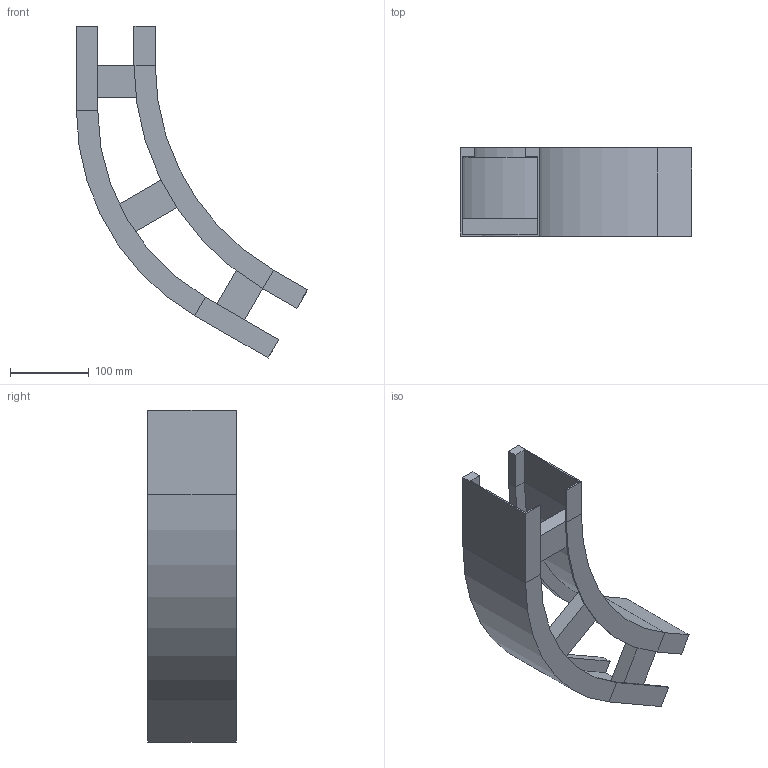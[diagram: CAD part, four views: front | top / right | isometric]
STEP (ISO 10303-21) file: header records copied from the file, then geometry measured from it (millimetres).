
FILE_DESCRIPTION (( 'STEP AP214' ), '1' );
FILE_NAME ('B2_13B3J100.step', '2025-02-21T15:19:51', ( '' ), ( '' ), 'SwSTEP 2.0', 'SolidWorks 2023', '' );
FILE_SCHEMA (( 'AUTOMOTIVE_DESIGN' ));
Length unit declared in the file: millimetre
Products named in the file (5): TRAVERSINO_L111; TRAVERSINO_100; B2_LONGH.INTERNO 60°_H112.5_R300; B2_13B3J100; B2_LONGH.ESTERNO 60°_H112.5_R300+100
Assembly tree (5 placements, depth 2):
  B2_13B3J100
    B2_LONGH.INTERNO 60°_H112.5_R300
    B2_LONGH.ESTERNO 60°_H112.5_R300+100
    TRAVERSINO_100  x2
    TRAVERSINO_L111
Bounding box: 293.3 x 112.5 x 421.41 mm (x, y, z)
Volume: 686179.3 mm3; surface area: 336909.2 mm2
Topology: 5 solids, 5 shells, 70 faces, 148 edges, 88 vertices
Faces by surface type: plane 62, cylinder 8
Entity records: 1822 total; most frequent: DIRECTION 296, CARTESIAN_POINT 288, ORIENTED_EDGE 272, EDGE_CURVE 136, LINE 120, VECTOR 120, AXIS2_PLACEMENT_3D 88, VERTEX_POINT 80
